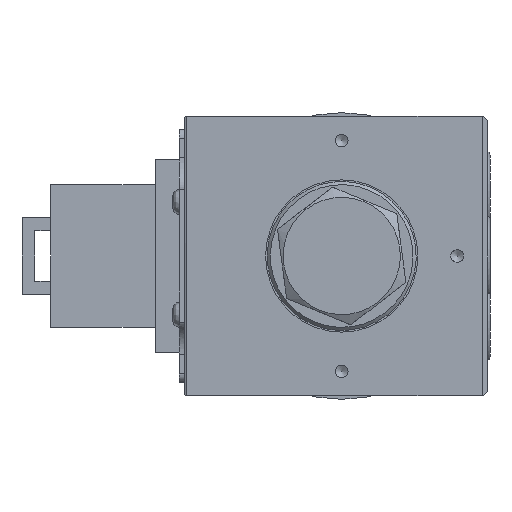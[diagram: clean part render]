
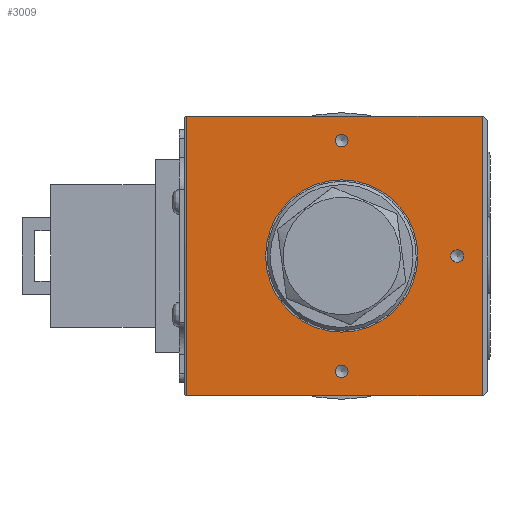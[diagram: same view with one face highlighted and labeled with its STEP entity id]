
A CAD part, left-side view. The second image highlights one B-rep face of the part: STEP entity #3009.
In plain terms, the highlighted planar face has unit normal (-1, 0, 0).
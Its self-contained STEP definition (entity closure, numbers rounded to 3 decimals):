
#1660=FACE_BOUND('',#5728,.T.);
#1661=FACE_BOUND('',#5729,.T.);
#1662=FACE_BOUND('',#5730,.T.);
#1663=FACE_BOUND('',#5731,.T.);
#1664=FACE_BOUND('',#5732,.T.);
#2060=CIRCLE('',#19896,12.);
#2061=CIRCLE('',#19897,1.);
#2062=CIRCLE('',#19898,1.);
#2063=CIRCLE('',#19899,1.);
#3009=ADVANCED_FACE('',(#1660,#1661,#1662,#1663,#1664),#3854,.T.);
#3854=PLANE('',#19900);
#5728=EDGE_LOOP('',(#10105));
#5729=EDGE_LOOP('',(#10106,#10107,#10108,#10109));
#5730=EDGE_LOOP('',(#10110));
#5731=EDGE_LOOP('',(#10111));
#5732=EDGE_LOOP('',(#10112));
#10105=ORIENTED_EDGE('',*,*,#14740,.T.);
#10106=ORIENTED_EDGE('',*,*,#14693,.F.);
#10107=ORIENTED_EDGE('',*,*,#14741,.T.);
#10108=ORIENTED_EDGE('',*,*,#14728,.T.);
#10109=ORIENTED_EDGE('',*,*,#14742,.T.);
#10110=ORIENTED_EDGE('',*,*,#14743,.T.);
#10111=ORIENTED_EDGE('',*,*,#14744,.T.);
#10112=ORIENTED_EDGE('',*,*,#14745,.T.);
#12343=VERTEX_POINT('',#36509);
#12344=VERTEX_POINT('',#36511);
#12378=VERTEX_POINT('',#36587);
#12379=VERTEX_POINT('',#36588);
#12388=VERTEX_POINT('',#36611);
#12389=VERTEX_POINT('',#36615);
#12390=VERTEX_POINT('',#36617);
#12391=VERTEX_POINT('',#36619);
#14693=EDGE_CURVE('',#12343,#12344,#16805,.T.);
#14728=EDGE_CURVE('',#12378,#12379,#16817,.T.);
#14740=EDGE_CURVE('',#12388,#12388,#2060,.T.);
#14741=EDGE_CURVE('',#12343,#12378,#16825,.T.);
#14742=EDGE_CURVE('',#12379,#12344,#16826,.T.);
#14743=EDGE_CURVE('',#12389,#12389,#2061,.T.);
#14744=EDGE_CURVE('',#12390,#12390,#2062,.T.);
#14745=EDGE_CURVE('',#12391,#12391,#2063,.T.);
#16805=LINE('',#36510,#18642);
#16817=LINE('',#36586,#18654);
#16825=LINE('',#36612,#18662);
#16826=LINE('',#36613,#18663);
#18642=VECTOR('',#24060,1.);
#18654=VECTOR('',#24132,1.);
#18662=VECTOR('',#24154,1.);
#18663=VECTOR('',#24155,1.);
#19896=AXIS2_PLACEMENT_3D('',#36610,#24152,#24153);
#19897=AXIS2_PLACEMENT_3D('',#36614,#24156,#24157);
#19898=AXIS2_PLACEMENT_3D('',#36616,#24158,#24159);
#19899=AXIS2_PLACEMENT_3D('',#36618,#24160,#24161);
#19900=AXIS2_PLACEMENT_3D('',#36620,#24162,#24163);
#24060=DIRECTION('',(0.,-1.,0.));
#24132=DIRECTION('',(0.,-1.,0.));
#24152=DIRECTION('',(1.,0.,0.));
#24153=DIRECTION('',(0.,0.,1.));
#24154=DIRECTION('',(0.,0.,-1.));
#24155=DIRECTION('',(0.,0.,1.));
#24156=DIRECTION('',(1.,0.,0.));
#24157=DIRECTION('',(0.,0.,1.));
#24158=DIRECTION('',(1.,0.,0.));
#24159=DIRECTION('',(0.,0.,1.));
#24160=DIRECTION('',(1.,0.,0.));
#24161=DIRECTION('',(0.,0.,1.));
#24162=DIRECTION('',(-1.,0.,0.));
#24163=DIRECTION('',(0.,0.,1.));
#36509=CARTESIAN_POINT('',(106.076,196.261,22.));
#36510=CARTESIAN_POINT('',(106.076,172.261,22.));
#36511=CARTESIAN_POINT('',(106.076,149.611,22.));
#36586=CARTESIAN_POINT('',(106.076,172.261,-22.));
#36587=CARTESIAN_POINT('',(106.076,196.261,-22.));
#36588=CARTESIAN_POINT('',(106.076,149.611,-22.));
#36610=CARTESIAN_POINT('',(106.076,171.761,0.));
#36611=CARTESIAN_POINT('',(106.076,171.761,12.));
#36612=CARTESIAN_POINT('',(106.076,196.261,-22.));
#36613=CARTESIAN_POINT('',(106.076,149.611,3.45));
#36614=CARTESIAN_POINT('',(106.076,153.561,0.));
#36615=CARTESIAN_POINT('',(106.076,153.561,1.));
#36616=CARTESIAN_POINT('',(106.076,171.761,18.2));
#36617=CARTESIAN_POINT('',(106.076,171.761,19.2));
#36618=CARTESIAN_POINT('',(106.076,171.761,-18.2));
#36619=CARTESIAN_POINT('',(106.076,171.761,-17.2));
#36620=CARTESIAN_POINT('',(106.076,167.561,3.45));
